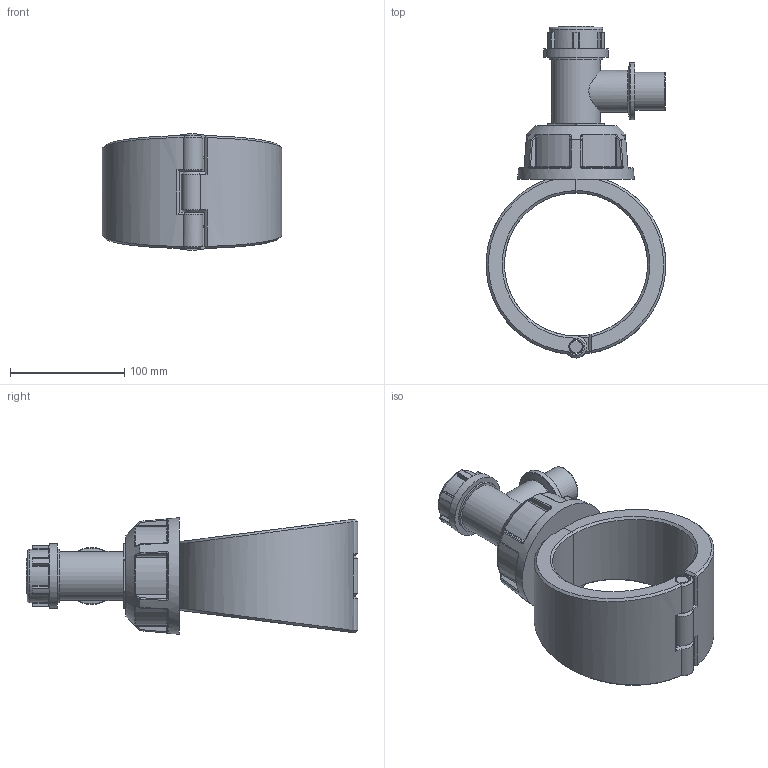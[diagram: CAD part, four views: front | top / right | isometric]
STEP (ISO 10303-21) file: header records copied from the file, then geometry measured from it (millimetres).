
FILE_DESCRIPTION(/* description */ ('Plassadle Tapper Male 125x1'''''),/* implementation_level */ '2;1');
FILE_NAME(/* name */ 'C:\Users\comp2\Dropbox\99-16-3568-Processing\Mechanical Fittings\1631R\stp\1631R0125010.stp',/* time_stamp */ '2022-02-03T12:06:42+00:00',/* author */ ('comp2'),/* organization */ (''),/* preprocessor_version */ 'ST-DEVELOPER v17.2',/* originating_system */ 'Autodesk Inventor 2019',/* authorisation */ '');
FILE_SCHEMA (('AUTOMOTIVE_DESIGN { 1 0 10303 214 3 1 1 }'));
Length unit declared in the file: millimetre
Products named in the file (1): 1631R0125010
Bounding box: 156.99 x 290 x 102 mm (x, y, z)
Volume: 1031838 mm3; surface area: 147679 mm2
Topology: 4 solids, 4 shells, 341 faces, 833 edges, 509 vertices
Faces by surface type: cylinder 110, plane 82, bspline 70, torus 40, sphere 24, cone 15
Full cylindrical faces by diameter (mm): 10.74 x1, 12.74 x3, 24.937 x1, 30.6 x1, 33.249 x1, 36.574 x1, 42.84 x1, 46.84 x2, 49.873 x1, 56.1 x1
Entity records: 13165 total; most frequent: CARTESIAN_POINT 5527, ORIENTED_EDGE 1666, DIRECTION 1492, EDGE_CURVE 833, AXIS2_PLACEMENT_3D 627, VERTEX_POINT 509, EDGE_LOOP 356, FACE_OUTER_BOUND 341
